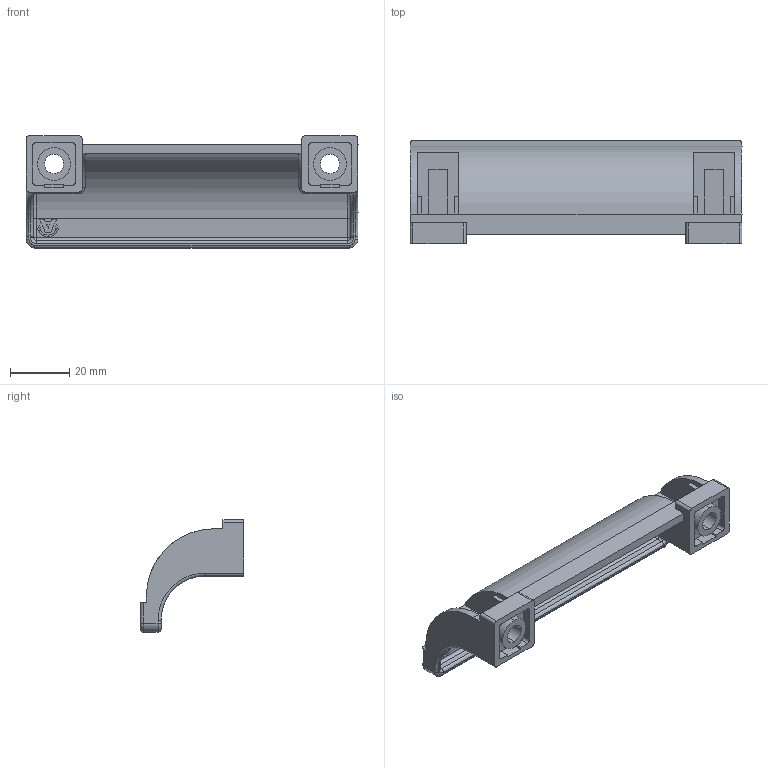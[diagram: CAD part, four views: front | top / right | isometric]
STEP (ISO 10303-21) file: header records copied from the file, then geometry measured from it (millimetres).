
FILE_DESCRIPTION (( 'STEP AP203' ), '1' );
FILE_NAME ('084.506.005A.STEP', '2018-02-26T15:40:14', ( '' ), ( '' ), 'SwSTEP 2.0', 'SolidWorks 2016', '' );
FILE_SCHEMA (( 'CONFIG_CONTROL_DESIGN' ));
Length unit declared in the file: millimetre
Products named in the file (1): 084.506.005A
Bounding box: 112.5 x 35 x 38 mm (x, y, z)
Volume: 21777.2 mm3; surface area: 18606.4 mm2
Topology: 1 solids, 1 shells, 210 faces, 563 edges, 356 vertices
Faces by surface type: plane 138, cylinder 50, torus 14, bspline 4, sphere 4
Entity records: 6738 total; most frequent: CARTESIAN_POINT 1358, ORIENTED_EDGE 1118, DIRECTION 1087, EDGE_CURVE 559, LINE 429, VECTOR 429, VERTEX_POINT 356, AXIS2_PLACEMENT_3D 329
